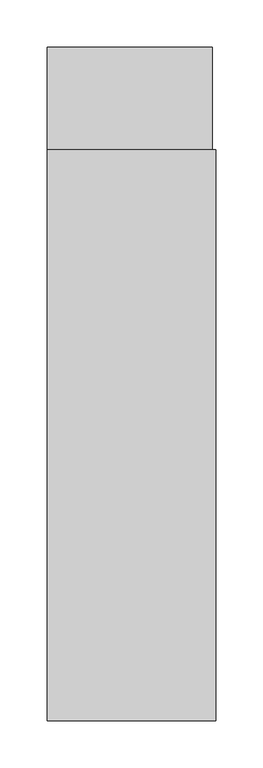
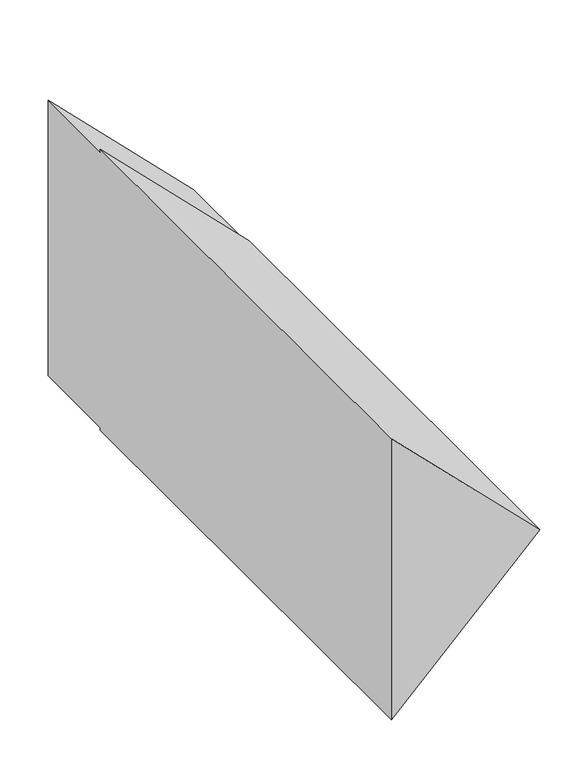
"""IFC4 building model written with IfcOpenShell, lengths in millimetres: proxy geometry, CAMBRIDGE^TABLE 2_4884 Rect-INSIDE END PANEL."""

from ifc_helpers import new_model, si_unit, origin, place, context, project, spatial, faceted_brep, source, transform, mapped, element, save


def generic_models_eadb5b59(model_context):
    return source(origin(), model_context, "Body", "Brep", [
        faceted_brep([(635.0, -711.2, -787.4), (812.8, -711.2, -609.6), (635.0, -711.2, -431.8), (635.0, -107.95, -787.4), (812.8, -107.95, -609.6), (635.0, 0.0, -435.3921024), (809.2078976, 0.0, -609.6), (635.0, 0.0, -783.8078976), (635.0, -107.95, -435.3921024), (809.2078976, -107.95, -609.6), (635.0, -107.95, -431.8), (635.0, -107.95, -783.8078976)], [[[0, 1, 2]], [[1, 0, 3, 4]], [[5, 6, 7]], [[6, 5, 8, 9]], [[1, 4, 10, 2]], [[6, 9, 11, 7]], [[9, 8, 10, 4, 3, 11]], [[11, 3, 0, 2, 10, 8, 5, 7]]]),
    ])


if __name__ == "__main__":
    model = new_model("IFC4")
    model_context = context("Model", 3, world=origin())
    ifc_project = project(units=[si_unit("LENGTHUNIT", "METRE", prefix="MILLI")], contexts=[model_context])
    site = spatial("IfcSite", under=ifc_project)
    building = spatial("IfcBuilding", under=site)
    placement = place(None, origin())
    generic_models_shape = generic_models_eadb5b59(model_context)
    element("IfcBuildingElementProxy", 1, Name="CAMBRIDGE^TABLE 2_4884 Rect-INSIDE END PANEL", ObjectType="CAMBRIDGE^TABLE 2_4884 Rect-INSIDE END PANEL", at=placement, inside=building, context=model_context, shape_type="MappedRepresentation", body=[
        mapped(generic_models_shape, transform((0.0, 0.0, 0.0), x_axis=(1.0, 0.0, 0.0), y_axis=(0.0, 1.0, 0.0), z_axis=(0.0, 0.0, 1.0))),
    ])
    save(model, "model.ifc")
